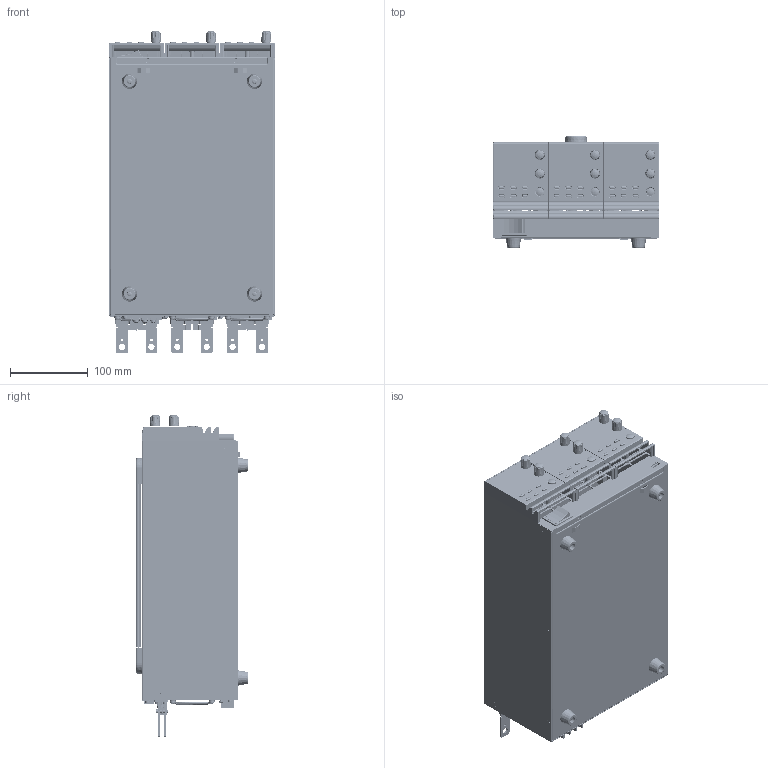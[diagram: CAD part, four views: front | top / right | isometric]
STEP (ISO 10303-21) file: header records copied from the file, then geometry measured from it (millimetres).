
FILE_DESCRIPTION((''),'2;1');
FILE_NAME('PSW-MULTI-CH-L-M3-ASM_ASM','2023-07-04T09:25:03',('shane_wang'),(''),'CREO PARAMETRIC BY PTC INC, 2019080','CREO PARAMETRIC BY PTC INC, 2019080','');
FILE_SCHEMA(('CONFIG_CONTROL_DESIGN'));
Products named in the file (74): PSW_ASM_SKEL; PSW-MULTI-CH-L-M3-FP; 62SW-080FP301_ASM; POWER_SW_AJ8R1013; PSW-MULTI-CH-L-M3-FP-ASM_ASM; 63FP-AG107501; INSERT-CU; 63FP-AG107501_ASM; 63KE-XG2001A1; 5005-130G0101; 51SW-30080101; 51SW-804002A1; PSW-F1_ASM_ASM; PMS-3X4; PMS-W-3X6; 62SW-080LO1A1; BSO-M3X55; FH-M4-15; 62SW-080LO1A1_ASM; 57FC-10B0100_GL-4L-B; BMS-W-3X12; USB2; T36-E031-3PIN; RJ-45; PSW-MAINPCB3_ASM_ASM; BMS-LOCK-3X4; BOX-TYPE-PLUGS-26PIN; DOUBLE-ROW-SOCKETS_ASM_ASM; USB; 62SW-080HP501; PSW-ANALOG-DIGITAL-PCB_ASM_ASM; PSW-MULTI-CH-L-M3-LO-ASM_ASM; FMS110-3X6; 62SW-080RP301; 62SW-080RP301_ASM; 57IL-20G00101; 57IL-20G00101_ASM; 62SW-080CP101; 62SW-080CP201; PBT_ASM_ASM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
Assembly tree (225 placements, depth 5):
  PSW-MULTI-CH-L-M3-ASM_ASM
    PSW_ASM_SKEL
    PSW-MULTI-CH-L-M3-FP-ASM_ASM
      62SW-080FP301_ASM
        PSW-MULTI-CH-L-M3-FP
      POWER_SW_AJ8R1013
    PSW-F1_ASM_ASM  x3
      63FP-AG107501_ASM
        63FP-AG107501
        INSERT-CU  x2
      63KE-XG2001A1
      5005-130G0101
      51SW-30080101
      51SW-804002A1
    PMS-3X4  x3
    PMS-W-3X6  x25
    PSW-MULTI-CH-L-M3-LO-ASM_ASM
      62SW-080LO1A1_ASM
        62SW-080LO1A1
        BSO-M3X55  x18
        FH-M4-15
      57FC-10B0100_GL-4L-B  x4
      BMS-W-3X12  x4
      PSW-MAINPCB3_ASM_ASM
        USB2
        T36-E031-3PIN
        RJ-45
      BMS-LOCK-3X4  x18
      PSW-ANALOG-DIGITAL-PCB_ASM_ASM  x3
        DOUBLE-ROW-SOCKETS_ASM_ASM
          BOX-TYPE-PLUGS-26PIN
        USB
        62SW-080HP501
    FMS110-3X6  x21
    PSW-MULTI-CH-L-M3-RP-ASM_ASM
      62SW-080RP301_ASM
        62SW-080RP301
      PBT_ASM_ASM  x3
        57IL-20G00101_ASM
          57IL-20G00101
        62SW-080CP101
        62SW-080CP201
      FAN-60X60-25  x3
      FAN-NET-60-60  x3
      PSW-OUTPUT-PCB-MULTI_ASM  x3
        PSW-OUTPUT-PCB
        62SW-080CP901
        62SW-080CPA01_ASM
          62SW-080CPA01
        WAFER-3PIN
        62SW-360HP301
    BMS-W-4X8  x9
    BMS-LOCK-3X6  x3
    IMS-3X6  x6
    PSW-MULTI-CH-L-M3-UP-ASM_ASM
      62SW-080UP201_ASM
        PSW-MULTI-CH-L-M3-UP
        S-M4-1_NUT  x2
      57IL-28F093A1
      BELT_ASM_ASM
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Bounding box: 212.8 x 144.2 x 413.8 mm (x, y, z)
Volume: 616983.2 mm3; surface area: 1058857.8 mm2
Topology: 254 solids, 258 shells, 16450 faces, 41678 edges, 26331 vertices
Faces by surface type: plane 9760, cylinder 3475, cone 1573, bspline 1020, sphere 382, torus 240
Entity records: 209207 total; most frequent: CARTESIAN_POINT 56872, ORIENTED_EDGE 31409, DIRECTION 30955, EDGE_CURVE 15729, VECTOR 10683, LINE 10683, AXIS2_PLACEMENT_3D 10136, VERTEX_POINT 9868
